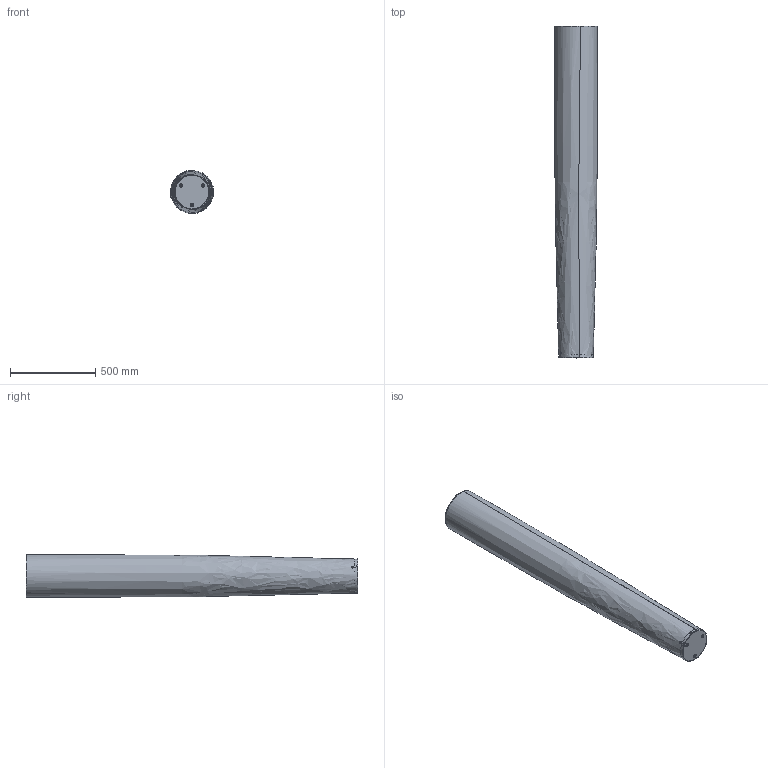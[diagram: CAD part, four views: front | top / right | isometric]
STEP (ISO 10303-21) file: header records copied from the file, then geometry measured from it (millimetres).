
FILE_DESCRIPTION (( 'STEP AP214' ), '1' );
FILE_NAME ('182_GRANDE_F_PL_3D.STEP', '2021-05-05T09:41:52', ( '' ), ( '' ), 'SwSTEP 2.0', 'SolidWorks 2021', '' );
FILE_SCHEMA (( 'AUTOMOTIVE_DESIGN' ));
Length unit declared in the file: millimetre
Products named in the file (1): 182_GRANDE_F_PL_3D
Bounding box: 251.99 x 1951 x 252.23 mm (x, y, z)
Volume: 2946065.9 mm3; surface area: 3218137.4 mm2
Topology: 6 solids, 6 shells, 136 faces, 338 edges, 214 vertices
Faces by surface type: cylinder 58, plane 33, cone 17, torus 16, bspline 8, sphere 4
Entity records: 9683 total; most frequent: CARTESIAN_POINT 4825, DIRECTION 684, ORIENTED_EDGE 676, EDGE_CURVE 338, AXIS2_PLACEMENT_3D 283, VERTEX_POINT 214, EDGE_LOOP 170, CIRCLE 154
